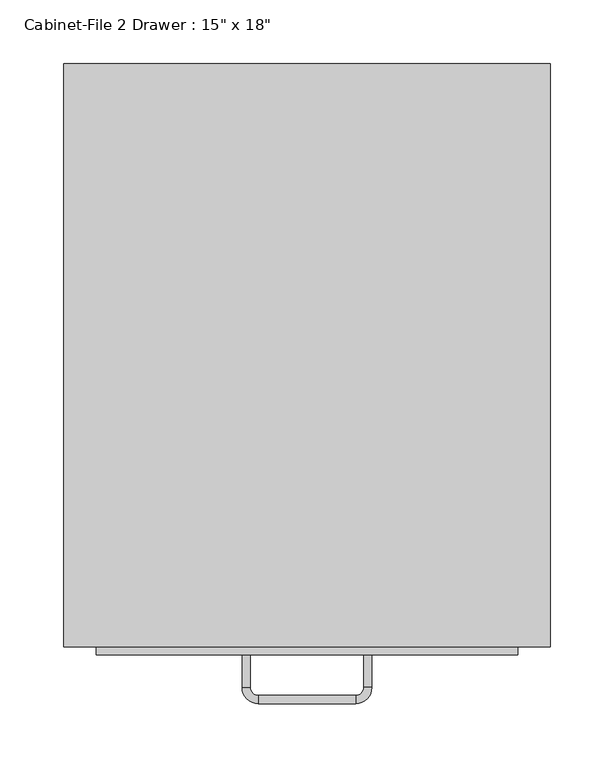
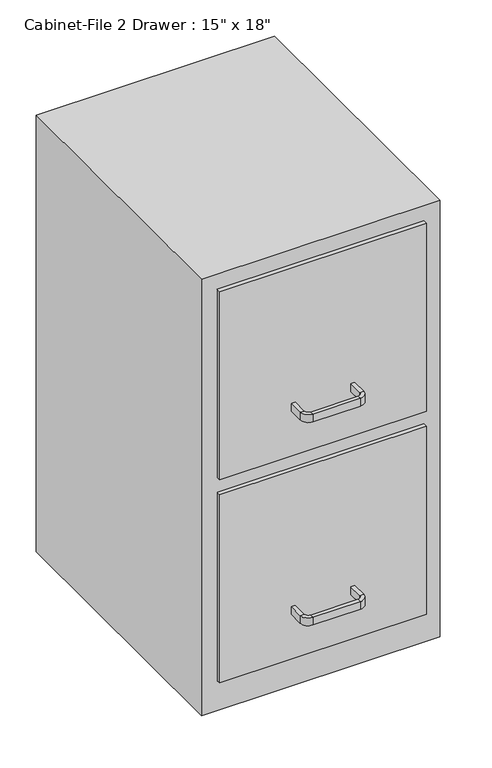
"""IFC4 building model written with IfcOpenShell, lengths in millimetres: furniture geometry."""

from ifc_helpers import new_model, si_unit, frame, origin, origin_with_axes, place, context, project, spatial, polyline, circle_curve, outline, extrude, source, transform, mapped, element, save
from ifc_brep_helpers import plane_surface, cylinder_surface, revolved_surface, advanced_brep


def furniture_bb55ed6b(model_context):
    return source(origin(), model_context, "Body", "SolidModel", [
        extrude(outline(polyline([(37.203553, -377.0843001), (-292.996447, -377.0843001), (-292.996447, -370.7343001), (37.203553, -370.7343001), (37.203553, -377.0843001)])), frame((0.0, 0.0, 393.7), z_axis=(0.0, 0.0, 1.0), x_axis=(1.0, 0.0, 0.0)), (0.0, 0.0, 1.0), 317.5),
        extrude(outline(polyline([(37.203553, -377.0843001), (-292.996447, -377.0843001), (-292.996447, -370.7343001), (37.203553, -370.7343001), (37.203553, -377.0843001)])), frame((0.0, 0.0, 50.8), z_axis=(0.0, 0.0, 1.0), x_axis=(1.0, 0.0, 0.0)), (0.0, 0.0, 1.0), 317.5),
        advanced_brep(
        [(-172.346447, -377.0843001, 127.0), (-178.696447, -377.0843001, 127.0), (-178.696447, -377.0843001, 139.7), (-172.346447, -377.0843001, 139.7), (-172.346447, -402.4843001, 127.0), (-178.696447, -402.4843001, 127.0), (-178.696447, -402.4843001, 139.7), (-172.346447, -402.4843001, 139.7), (-165.996447, -415.1843001, 127.0), (-165.996447, -408.8343001, 127.0), (-165.996447, -415.1843001, 139.7), (-165.996447, -408.8343001, 139.7), (-89.796447, -408.8343001, 127.0), (-89.796447, -415.1843001, 127.0), (-89.796447, -415.1843001, 139.7), (-89.796447, -408.8343001, 139.7), (-77.096447, -402.4843001, 127.0), (-83.446447, -402.4843001, 127.0), (-77.096447, -402.4843001, 139.7), (-83.446447, -402.4843001, 139.7), (-83.446447, -377.0843001, 127.0), (-83.446447, -377.0843001, 139.7), (-77.096447, -377.0843001, 139.7), (-77.096447, -377.0843001, 127.0)],
        [
            (0, 1),
            (1, 2),
            (2, 3),
            (3, 0),
            (0, 4),
            (4, 5),
            (5, 1),
            (5, 6),
            (6, 2),
            (6, 7),
            (7, 3),
            (7, 4),
            (8, 5, circle_curve(frame((-165.996447, -402.4843001, 127.0), z_axis=(0.0, 0.0, -1.0), x_axis=(-1.0, 0.0, 0.0)), 12.7)),
            (4, 9, circle_curve(frame((-165.996447, -402.4843001, 127.0), z_axis=(0.0, 0.0, 1.0), x_axis=(-1.0, 0.0, 0.0)), 6.35)),
            (9, 8),
            (10, 6, circle_curve(frame((-165.996447, -402.4843001, 139.7), z_axis=(0.0, 0.0, -1.0), x_axis=(-1.0, 0.0, 0.0)), 12.7)),
            (8, 10),
            (11, 7, circle_curve(frame((-165.996447, -402.4843001, 139.7), z_axis=(0.0, 0.0, -1.0), x_axis=(-1.0, 0.0, 0.0)), 6.35)),
            (10, 11),
            (11, 9),
            (9, 12),
            (12, 13),
            (13, 8),
            (13, 14),
            (14, 10),
            (14, 15),
            (15, 11),
            (15, 12),
            (16, 13, circle_curve(frame((-89.796447, -402.4843001, 127.0), z_axis=(0.0, 0.0, -1.0), x_axis=(0.0, -1.0, 0.0)), 12.7)),
            (12, 17, circle_curve(frame((-89.796447, -402.4843001, 127.0), z_axis=(0.0, 0.0, 1.0), x_axis=(0.0, -1.0, 0.0)), 6.35)),
            (17, 16),
            (18, 14, circle_curve(frame((-89.796447, -402.4843001, 139.7), z_axis=(0.0, 0.0, -1.0), x_axis=(0.0, -1.0, 0.0)), 12.7)),
            (16, 18),
            (19, 15, circle_curve(frame((-89.796447, -402.4843001, 139.7), z_axis=(0.0, 0.0, -1.0), x_axis=(0.0, -1.0, 0.0)), 6.35)),
            (18, 19),
            (19, 17),
            (20, 21),
            (21, 22),
            (22, 23),
            (23, 20),
            (17, 20),
            (23, 16),
            (22, 18),
            (21, 19),
        ],
        [
            plane_surface(frame((-661.3382215, -377.0843001, 0.0), z_axis=(0.0, 1.0, 0.0), x_axis=(0.0, 0.0, -1.0))),
            plane_surface(frame((-172.346447, -377.0843001, 127.0), z_axis=(0.0, 0.0, -1.0), x_axis=(0.0, -1.0, 0.0))),
            plane_surface(frame((-178.696447, -377.0843001, 127.0), z_axis=(-1.0, 0.0, 0.0), x_axis=(0.0, -1.0, 0.0))),
            plane_surface(frame((-178.696447, -377.0843001, 139.7), z_axis=(0.0, 0.0, 1.0), x_axis=(0.0, -1.0, 0.0))),
            plane_surface(frame((-172.346447, -377.0843001, 139.7), z_axis=(1.0, 0.0, 0.0), x_axis=(0.0, -1.0, 0.0))),
            plane_surface(frame((-165.996447, -402.4843001, 127.0), z_axis=(0.0, 0.0, -1.0), x_axis=(-1.0, 0.0, 0.0))),
            cylinder_surface(frame((-165.996447, -402.4843001, 0.0), z_axis=(0.0, 0.0, 1.0), x_axis=(-1.0, 0.0, 0.0)), 12.7),
            plane_surface(frame((-165.996447, -402.4843001, 139.7), z_axis=(0.0, 0.0, 1.0), x_axis=(-1.0, 0.0, 0.0))),
            revolved_surface(polyline([(-172.34644699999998, -402.4843001, 139.7), (-172.34644699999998, -402.4843001, 127.0)]), (-165.996447, -402.4843001, 0.0), (0.0, 0.0, 1.0)),
            plane_surface(frame((-165.996447, -408.8343001, 127.0), z_axis=(0.0, 0.0, -1.0), x_axis=(1.0, 0.0, 0.0))),
            plane_surface(frame((-165.996447, -415.1843001, 127.0), z_axis=(0.0, -1.0, 0.0), x_axis=(1.0, 0.0, 0.0))),
            plane_surface(frame((-165.996447, -415.1843001, 139.7), z_axis=(0.0, 0.0, 1.0), x_axis=(1.0, 0.0, 0.0))),
            plane_surface(frame((-165.996447, -408.8343001, 139.7), z_axis=(0.0, 1.0, 0.0), x_axis=(1.0, 0.0, 0.0))),
            plane_surface(frame((-89.796447, -402.4843001, 127.0), z_axis=(0.0, 0.0, -1.0), x_axis=(0.0, -1.0, 0.0))),
            cylinder_surface(frame((-89.796447, -402.4843001, 0.0), z_axis=(0.0, 0.0, 1.0), x_axis=(0.0, -1.0, 0.0)), 12.7),
            plane_surface(frame((-89.796447, -402.4843001, 139.7), z_axis=(0.0, 0.0, 1.0), x_axis=(0.0, -1.0, 0.0))),
            revolved_surface(polyline([(-89.796447, -408.8343001, 139.7), (-89.796447, -408.8343001, 127.0)]), (-89.796447, -402.4843001, 0.0), (0.0, 0.0, 1.0)),
            plane_surface(frame((-559.7382215, -377.0843001, 0.0), z_axis=(0.0, 1.0, 0.0), x_axis=(0.0, 0.0, 1.0))),
            plane_surface(frame((-83.446447, -402.4843001, 127.0), z_axis=(0.0, 0.0, -1.0), x_axis=(0.0, 1.0, 0.0))),
            plane_surface(frame((-77.096447, -402.4843001, 127.0), z_axis=(1.0, 0.0, 0.0), x_axis=(0.0, 1.0, 0.0))),
            plane_surface(frame((-77.096447, -402.4843001, 139.7), z_axis=(0.0, 0.0, 1.0), x_axis=(0.0, 1.0, 0.0))),
            plane_surface(frame((-83.446447, -402.4843001, 139.7), z_axis=(-1.0, 0.0, 0.0), x_axis=(0.0, 1.0, 0.0))),
        ],
        [
            (0, [[1, 2, 3, 4]]),
            (1, [[-1, 5, 6, 7]]),
            (2, [[-2, -7, 8, 9]]),
            (3, [[-3, -9, 10, 11]]),
            (4, [[-4, -11, 12, -5]]),
            (5, [[13, -6, 14, 15]]),
            (6, [[16, -8, -13, 17]]),
            (7, [[18, -10, -16, 19]]),
            (8, [[-14, -12, -18, 20]]),
            (9, [[-15, 21, 22, 23]]),
            (10, [[-17, -23, 24, 25]]),
            (11, [[-19, -25, 26, 27]]),
            (12, [[-20, -27, 28, -21]]),
            (13, [[29, -22, 30, 31]]),
            (14, [[32, -24, -29, 33]]),
            (15, [[34, -26, -32, 35]]),
            (16, [[-30, -28, -34, 36]]),
            (17, [[37, 38, 39, 40]]),
            (18, [[-31, 41, -40, 42]]),
            (19, [[-33, -42, -39, 43]]),
            (20, [[-35, -43, -38, 44]]),
            (21, [[-36, -44, -37, -41]]),
        ],
    ),
        advanced_brep(
        [(-172.346447, -377.0843001, 469.9), (-178.696447, -377.0843001, 469.9), (-178.696447, -377.0843001, 482.6), (-172.346447, -377.0843001, 482.6), (-172.346447, -402.4843001, 469.9), (-178.696447, -402.4843001, 469.9), (-178.696447, -402.4843001, 482.6), (-172.346447, -402.4843001, 482.6), (-165.996447, -415.1843001, 469.9), (-165.996447, -408.8343001, 469.9), (-165.996447, -415.1843001, 482.6), (-165.996447, -408.8343001, 482.6), (-89.796447, -408.8343001, 469.9), (-89.796447, -415.1843001, 469.9), (-89.796447, -415.1843001, 482.6), (-89.796447, -408.8343001, 482.6), (-77.096447, -402.4843001, 469.9), (-83.446447, -402.4843001, 469.9), (-77.096447, -402.4843001, 482.6), (-83.446447, -402.4843001, 482.6), (-83.446447, -377.0843001, 469.9), (-83.446447, -377.0843001, 482.6), (-77.096447, -377.0843001, 482.6), (-77.096447, -377.0843001, 469.9)],
        [
            (0, 1),
            (1, 2),
            (2, 3),
            (3, 0),
            (0, 4),
            (4, 5),
            (5, 1),
            (5, 6),
            (6, 2),
            (6, 7),
            (7, 3),
            (7, 4),
            (8, 5, circle_curve(frame((-165.996447, -402.4843001, 469.9), z_axis=(0.0, 0.0, -1.0), x_axis=(-1.0, 0.0, 0.0)), 12.7)),
            (4, 9, circle_curve(frame((-165.996447, -402.4843001, 469.9), z_axis=(0.0, 0.0, 1.0), x_axis=(-1.0, 0.0, 0.0)), 6.35)),
            (9, 8),
            (10, 6, circle_curve(frame((-165.996447, -402.4843001, 482.6), z_axis=(0.0, 0.0, -1.0), x_axis=(-1.0, 0.0, 0.0)), 12.7)),
            (8, 10),
            (11, 7, circle_curve(frame((-165.996447, -402.4843001, 482.6), z_axis=(0.0, 0.0, -1.0), x_axis=(-1.0, 0.0, 0.0)), 6.35)),
            (10, 11),
            (11, 9),
            (9, 12),
            (12, 13),
            (13, 8),
            (13, 14),
            (14, 10),
            (14, 15),
            (15, 11),
            (15, 12),
            (16, 13, circle_curve(frame((-89.796447, -402.4843001, 469.9), z_axis=(0.0, 0.0, -1.0), x_axis=(0.0, -1.0, 0.0)), 12.7)),
            (12, 17, circle_curve(frame((-89.796447, -402.4843001, 469.9), z_axis=(0.0, 0.0, 1.0), x_axis=(0.0, -1.0, 0.0)), 6.35)),
            (17, 16),
            (18, 14, circle_curve(frame((-89.796447, -402.4843001, 482.6), z_axis=(0.0, 0.0, -1.0), x_axis=(0.0, -1.0, 0.0)), 12.7)),
            (16, 18),
            (19, 15, circle_curve(frame((-89.796447, -402.4843001, 482.6), z_axis=(0.0, 0.0, -1.0), x_axis=(0.0, -1.0, 0.0)), 6.35)),
            (18, 19),
            (19, 17),
            (20, 21),
            (21, 22),
            (22, 23),
            (23, 20),
            (17, 20),
            (23, 16),
            (22, 18),
            (21, 19),
        ],
        [
            plane_surface(frame((-661.3382215, -377.0843001, 0.0), z_axis=(0.0, 1.0, 0.0), x_axis=(0.0, 0.0, -1.0))),
            plane_surface(frame((-172.346447, -377.0843001, 469.9), z_axis=(0.0, 0.0, -1.0), x_axis=(0.0, -1.0, 0.0))),
            plane_surface(frame((-178.696447, -377.0843001, 469.9), z_axis=(-1.0, 0.0, 0.0), x_axis=(0.0, -1.0, 0.0))),
            plane_surface(frame((-178.696447, -377.0843001, 482.6), z_axis=(0.0, 0.0, 1.0), x_axis=(0.0, -1.0, 0.0))),
            plane_surface(frame((-172.346447, -377.0843001, 482.6), z_axis=(1.0, 0.0, 0.0), x_axis=(0.0, -1.0, 0.0))),
            plane_surface(frame((-165.996447, -402.4843001, 469.9), z_axis=(0.0, 0.0, -1.0), x_axis=(-1.0, 0.0, 0.0))),
            cylinder_surface(frame((-165.996447, -402.4843001, 0.0), z_axis=(0.0, 0.0, 1.0), x_axis=(-1.0, 0.0, 0.0)), 12.7),
            plane_surface(frame((-165.996447, -402.4843001, 482.6), z_axis=(0.0, 0.0, 1.0), x_axis=(-1.0, 0.0, 0.0))),
            revolved_surface(polyline([(-172.34644699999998, -402.4843001, 482.6), (-172.34644699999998, -402.4843001, 469.9)]), (-165.996447, -402.4843001, 0.0), (0.0, 0.0, 1.0)),
            plane_surface(frame((-165.996447, -408.8343001, 469.9), z_axis=(0.0, 0.0, -1.0), x_axis=(1.0, 0.0, 0.0))),
            plane_surface(frame((-165.996447, -415.1843001, 469.9), z_axis=(0.0, -1.0, 0.0), x_axis=(1.0, 0.0, 0.0))),
            plane_surface(frame((-165.996447, -415.1843001, 482.6), z_axis=(0.0, 0.0, 1.0), x_axis=(1.0, 0.0, 0.0))),
            plane_surface(frame((-165.996447, -408.8343001, 482.6), z_axis=(0.0, 1.0, 0.0), x_axis=(1.0, 0.0, 0.0))),
            plane_surface(frame((-89.796447, -402.4843001, 469.9), z_axis=(0.0, 0.0, -1.0), x_axis=(0.0, -1.0, 0.0))),
            cylinder_surface(frame((-89.796447, -402.4843001, 0.0), z_axis=(0.0, 0.0, 1.0), x_axis=(0.0, -1.0, 0.0)), 12.7),
            plane_surface(frame((-89.796447, -402.4843001, 482.6), z_axis=(0.0, 0.0, 1.0), x_axis=(0.0, -1.0, 0.0))),
            revolved_surface(polyline([(-89.796447, -408.8343001, 482.6), (-89.796447, -408.8343001, 469.9)]), (-89.796447, -402.4843001, 0.0), (0.0, 0.0, 1.0)),
            plane_surface(frame((-559.7382215, -377.0843001, 0.0), z_axis=(0.0, 1.0, 0.0), x_axis=(0.0, 0.0, 1.0))),
            plane_surface(frame((-83.446447, -402.4843001, 469.9), z_axis=(0.0, 0.0, -1.0), x_axis=(0.0, 1.0, 0.0))),
            plane_surface(frame((-77.096447, -402.4843001, 469.9), z_axis=(1.0, 0.0, 0.0), x_axis=(0.0, 1.0, 0.0))),
            plane_surface(frame((-77.096447, -402.4843001, 482.6), z_axis=(0.0, 0.0, 1.0), x_axis=(0.0, 1.0, 0.0))),
            plane_surface(frame((-83.446447, -402.4843001, 482.6), z_axis=(-1.0, 0.0, 0.0), x_axis=(0.0, 1.0, 0.0))),
        ],
        [
            (0, [[1, 2, 3, 4]]),
            (1, [[-1, 5, 6, 7]]),
            (2, [[-2, -7, 8, 9]]),
            (3, [[-3, -9, 10, 11]]),
            (4, [[-4, -11, 12, -5]]),
            (5, [[13, -6, 14, 15]]),
            (6, [[16, -8, -13, 17]]),
            (7, [[18, -10, -16, 19]]),
            (8, [[-14, -12, -18, 20]]),
            (9, [[-15, 21, 22, 23]]),
            (10, [[-17, -23, 24, 25]]),
            (11, [[-19, -25, 26, 27]]),
            (12, [[-20, -27, 28, -21]]),
            (13, [[29, -22, 30, 31]]),
            (14, [[32, -24, -29, 33]]),
            (15, [[34, -26, -32, 35]]),
            (16, [[-30, -28, -34, 36]]),
            (17, [[37, 38, 39, 40]]),
            (18, [[-31, 41, -40, 42]]),
            (19, [[-33, -42, -39, 43]]),
            (20, [[-35, -43, -38, 44]]),
            (21, [[-36, -44, -37, -41]]),
        ],
    ),
        extrude(outline(polyline([(62.603553, 86.4656999), (62.603553, -370.7343001), (-318.396447, -370.7343001), (-318.396447, 86.4656999), (62.603553, 86.4656999)])), origin_with_axes(), (0.0, 0.0, 1.0), 736.6),
    ])


if __name__ == "__main__":
    model = new_model("IFC4")
    model_context = context("Model", 3, world=origin())
    ifc_project = project(units=[si_unit("LENGTHUNIT", "METRE", prefix="MILLI")], contexts=[model_context])
    site = spatial("IfcSite", under=ifc_project)
    building = spatial("IfcBuilding", under=site)
    placement = place(None, origin())
    furniture_shape = furniture_bb55ed6b(model_context)
    element("IfcFurniture", 1, ObjectType="Cabinet-File 2 Drawer : 15\" x 18\"", at=placement, inside=building, context=model_context, shape_type="MappedRepresentation", body=[
        mapped(furniture_shape, transform((0.0, 0.0, 0.0), x_axis=(1.0, 0.0, 0.0), y_axis=(0.0, 1.0, 0.0), z_axis=(0.0, 0.0, 1.0))),
    ])
    save(model, "model.ifc")
